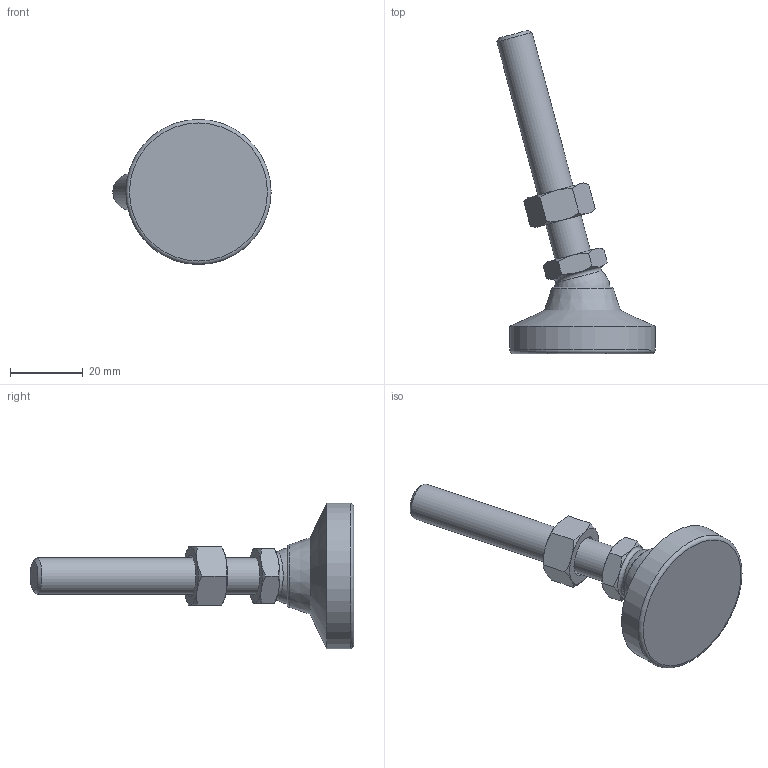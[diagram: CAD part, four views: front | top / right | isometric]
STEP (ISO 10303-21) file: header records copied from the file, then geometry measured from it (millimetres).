
FILE_DESCRIPTION( ( 'STEP AP214' ), ' ' );
FILE_NAME( 'O:/ganter_2015/teil_2/2_5/gn343_2/gn343_2_kr/Levelling foot with threaded stud GN 343.2-40-M10-63-KR-(15).stp', '2015-10-26T09:13:05', ( '' ), ( '' ), ' ', 'PARTsolutions', ' ' );
FILE_SCHEMA( ( 'AUTOMOTIVE_DESIGN { 1 0 10303 214 1 1 1 1 }' ) );
Length unit declared in the file: millimetre
Products named in the file (4): Levelling foot with threaded stud GN 343.2-40-M10-63-KR-(15); _Levelling foot with threaded stud GN 343.2-40-M10-63-KR-(15)_foot; _Levelling foot with threaded stud GN 343.2-40-M10-63-KR-(15)_screw; _Levelling foot with threaded stud GN 343.2-40-M10-63-KR-(15)_nut
Assembly tree (3 placements, depth 2):
  Levelling foot with threaded stud GN 343.2-40-M10-63-KR-(15)
    _Levelling foot with threaded stud GN 343.2-40-M10-63-KR-(15)_foot
    _Levelling foot with threaded stud GN 343.2-40-M10-63-KR-(15)_screw
    _Levelling foot with threaded stud GN 343.2-40-M10-63-KR-(15)_nut
Bounding box: 43.56 x 89.07 x 40 mm (x, y, z)
Volume: 22494 mm3; surface area: 8046.5 mm2
Topology: 3 solids, 3 shells, 50 faces, 107 edges, 63 vertices
Faces by surface type: cone 24, plane 18, torus 3, cylinder 3, sphere 2
Full cylindrical faces by diameter (mm): 8.376 x1, 10 x1, 40 x1
Entity records: 1874 total; most frequent: CARTESIAN_POINT 468, DIRECTION 188, ORIENTED_EDGE 176, AXIS2_PLACEMENT_3D 88, EDGE_CURVE 88, EDGE_LOOP 66, VERTEX_POINT 60, FACE_OUTER_BOUND 56
